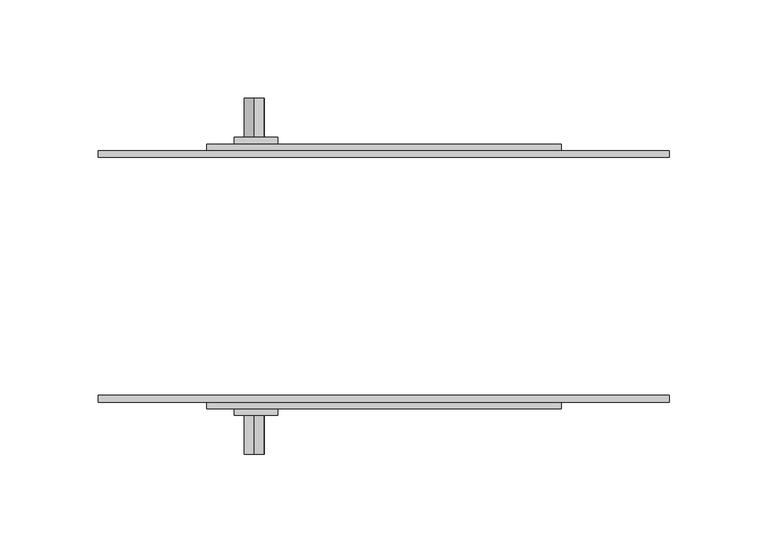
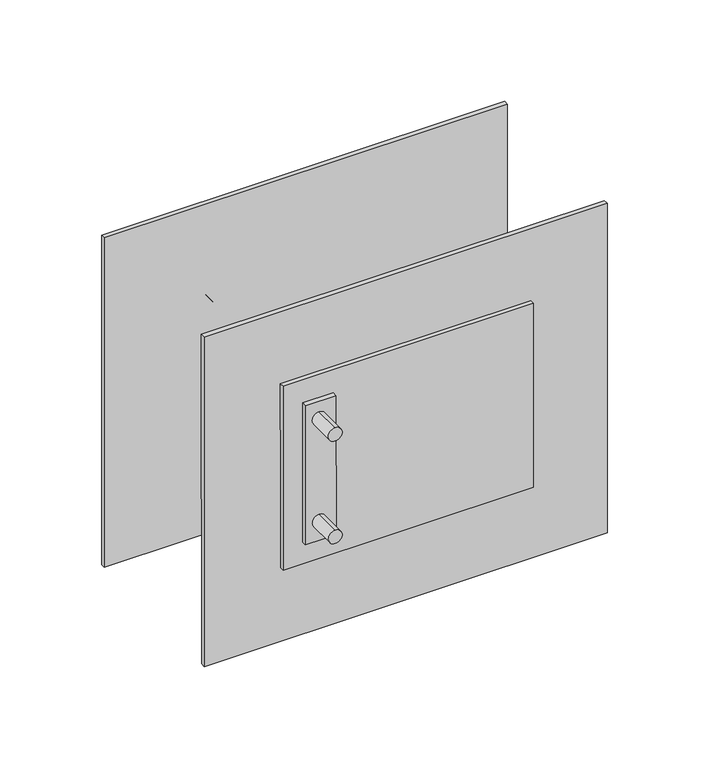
"""IFC4 building model written with IfcOpenShell, lengths in millimetres: proxy geometry, Distribution_Socket_Single_rotated : Distribution_Socket_Single_rotated."""

import ifcopenshell
import ifcopenshell.guid

model = None  # the IFC model being written
_history = None  # IfcOwnerHistory: only IFC2X3 demands one
_inside = {}  # id of a spatial element -> (the spatial element, [elements in it])
_under = {}  # id of a project, library or spatial element -> (it, [spatial elements below it])
_declared = {}  # id of a project -> (the project, [libraries it declares])
_typed = {}  # id of a type object -> (the type object, [elements of that type])
_made_of = {}  # id of a material, layer set ... -> (it, [elements and type objects made of it])


def new_model(schema):
    """Start an empty IFC model of exactly this schema.

    Asked for "IFC4X3", IfcOpenShell would pick the latest addendum, in which some entities
    have other attributes; the version numbers below select the first issue.
    IFC2X3 requires an IfcOwnerHistory on every rooted entity: one is made here for all.
    """
    global model, _history
    if schema == "IFC4X3":
        model = ifcopenshell.file(schema_version=(4, 3, 0, 0))
    else:
        model = ifcopenshell.file(schema=schema)
    _inside.clear()
    _under.clear()
    _declared.clear()
    _typed.clear()
    _made_of.clear()
    _history = None
    if model.schema == "IFC2X3":
        org = make("IfcOrganization", Name="unknown")
        user = make(
            "IfcPersonAndOrganization",
            ThePerson=make("IfcPerson", FamilyName="unknown"),
            TheOrganization=org,
        )
        app = make(
            "IfcApplication",
            ApplicationDeveloper=org,
            Version="unknown",
            ApplicationFullName="unknown",
            ApplicationIdentifier="unknown",
        )
        _history = make(
            "IfcOwnerHistory",
            OwningUser=user,
            OwningApplication=app,
            ChangeAction="ADDED",
            CreationDate=0,
        )
    return model


def make(cls, **values):
    """One entity of the class cls with the attributes given. An attribute that is None is left unset."""
    return model.create_entity(
        cls, **{name: value for name, value in values.items() if value is not None}
    )


def rooted(cls, **values):
    """An entity with a GlobalId (a new one), such as an element, a storey or a relation."""
    return make(cls, GlobalId=ifcopenshell.guid.new(), OwnerHistory=_history, **values)


def si_unit(unit_type, name, prefix=None):
    """IfcSIUnit, for example si_unit("LENGTHUNIT", "METRE", prefix="MILLI")."""
    return make("IfcSIUnit", UnitType=unit_type, Prefix=prefix, Name=name)


def assignment(units):
    """IfcUnitAssignment: the units of a project."""
    return None if units is None else make("IfcUnitAssignment", Units=units)


def point(xyz):
    """IfcCartesianPoint."""
    return None if xyz is None else make("IfcCartesianPoint", Coordinates=xyz)


def direction(xyz):
    """IfcDirection."""
    return None if xyz is None else make("IfcDirection", DirectionRatios=xyz)


def frame(location, z_axis=None, x_axis=None):
    """IfcAxis2Placement3D, a coordinate frame: its origin and axes. An axis left out is left unset."""
    return make(
        "IfcAxis2Placement3D",
        Location=point(location),
        Axis=direction(z_axis),
        RefDirection=direction(x_axis),
    )


def frame_2d(location, x_axis=None):
    """IfcAxis2Placement2D, a coordinate frame in the plane: its origin and x axis."""
    return make(
        "IfcAxis2Placement2D", Location=point(location), RefDirection=direction(x_axis)
    )


def origin():
    """The frame at (0, 0, 0) with its axes left unset."""
    return frame((0.0, 0.0, 0.0))


def place(relative_to, where):
    """IfcLocalPlacement: puts the frame where relative to a parent placement (None: the world)."""
    return make(
        "IfcLocalPlacement", PlacementRelTo=relative_to, RelativePlacement=where
    )


def context(
    kind, dimensions, precision=None, world=None, true_north=None, identifier=None
):
    """IfcGeometricRepresentationContext, for example the 3D "Model" context."""
    return make(
        "IfcGeometricRepresentationContext",
        ContextIdentifier=identifier,
        ContextType=kind,
        CoordinateSpaceDimension=dimensions,
        Precision=precision,
        WorldCoordinateSystem=world,
        TrueNorth=true_north,
    )


def project(units=None, contexts=None):
    """IfcProject with its units and contexts."""
    return rooted(
        "IfcProject",
        Name="project",
        RepresentationContexts=contexts,
        UnitsInContext=assignment(units),
    )


def spatial(cls, under=None, at=None, **own):
    """A site, building, storey or space (cls), placed at a placement, below another one or the project."""
    s = rooted(cls, ObjectPlacement=at, **own)
    if under is not None:
        _under.setdefault(under.id(), (under, []))[1].append(s)
    return s


def polyline(points):
    """IfcPolyline through the points."""
    return make("IfcPolyline", Points=[point(p) for p in points])


def circle_curve(where, radius):
    """IfcCircle in the frame where."""
    return make("IfcCircle", Position=where, Radius=radius)


def trimmed(basis, trim1, trim2, sense, master):
    """IfcTrimmedCurve: the piece of a basis curve between two trims."""
    return make(
        "IfcTrimmedCurve",
        BasisCurve=basis,
        Trim1=trim1,
        Trim2=trim2,
        SenseAgreement=sense,
        MasterRepresentation=master,
    )


def segment(curve, same_sense, transition):
    """IfcCompositeCurveSegment."""
    return make(
        "IfcCompositeCurveSegment",
        Transition=transition,
        SameSense=same_sense,
        ParentCurve=curve,
    )


def composite_curve(segments, self_intersect=None):
    """IfcCompositeCurve: segments joined end to end."""
    return make("IfcCompositeCurve", Segments=segments, SelfIntersect=self_intersect)


def outline(outer, holes=None, kind="AREA"):
    """IfcArbitraryClosedProfileDef: a profile drawn as a closed curve; with holes, ...WithVoids."""
    if holes is None:
        return make("IfcArbitraryClosedProfileDef", ProfileType=kind, OuterCurve=outer)
    return make(
        "IfcArbitraryProfileDefWithVoids",
        ProfileType=kind,
        OuterCurve=outer,
        InnerCurves=holes,
    )


def extrude(swept, where, along, depth):
    """IfcExtrudedAreaSolid: the profile swept, set in the frame where, extruded along a direction by depth."""
    return make(
        "IfcExtrudedAreaSolid",
        SweptArea=swept,
        Position=where,
        ExtrudedDirection=direction(along),
        Depth=depth,
    )


def shape(context_of_items, identifier, shape_type, items):
    """IfcShapeRepresentation: the items that make up one representation, for example the "Body"."""
    return make(
        "IfcShapeRepresentation",
        ContextOfItems=context_of_items,
        RepresentationIdentifier=identifier,
        RepresentationType=shape_type,
        Items=items,
    )


def source(mapping_origin, context_of_items, identifier, shape_type, items):
    """IfcRepresentationMap: a shape defined once, which mapped items show again and again."""
    return make(
        "IfcRepresentationMap",
        MappingOrigin=mapping_origin,
        MappedRepresentation=shape(context_of_items, identifier, shape_type, items),
    )


def transform(
    local_origin,
    x_axis=None,
    y_axis=None,
    z_axis=None,
    scale=None,
    scale2=None,
    scale3=None,
    uniform=True,
):
    """IfcCartesianTransformationOperator3D, or its non-uniform kind. x_axis, y_axis, z_axis: its Axis1, 2, 3."""
    if uniform:
        return make(
            "IfcCartesianTransformationOperator3D",
            Axis1=direction(x_axis),
            Axis2=direction(y_axis),
            LocalOrigin=point(local_origin),
            Scale=scale,
            Axis3=direction(z_axis),
        )
    return make(
        "IfcCartesianTransformationOperator3DnonUniform",
        Axis1=direction(x_axis),
        Axis2=direction(y_axis),
        LocalOrigin=point(local_origin),
        Scale=scale,
        Axis3=direction(z_axis),
        Scale2=scale2,
        Scale3=scale3,
    )


def mapped(mapping_source, mapping_target):
    """IfcMappedItem: shows the shape of a source again, moved by a transform."""
    return make(
        "IfcMappedItem", MappingSource=mapping_source, MappingTarget=mapping_target
    )


def made_of(thing, what):
    """Note that an element or type object is made of a material, layer set ...; save() writes the relation."""
    if what is not None:
        _made_of.setdefault(what.id(), (what, []))[1].append(thing)
    return thing


def element(
    cls,
    number,
    at=None,
    inside=None,
    cuts=None,
    type_object=None,
    material=None,
    context=None,
    identifier="Body",
    shape_type=None,
    held_by="IfcProductDefinitionShape",
    body=None,
    shapes=None,
    **own,
):
    """One element of the class cls, such as IfcWall. Its Tag is "e" and its number.

    at: its placement. inside: the storey or other place that contains it. cuts: it is an
    opening in that element (IfcRelVoidsElement). A single representation is given by context,
    identifier, shape_type and body (its items); several are given by shapes. held_by: the class
    of the entity that holds the representations. save() writes the other relations.
    """
    e = rooted(cls, Tag="e%d" % number, ObjectPlacement=at, **own)
    if body is not None:
        shapes = [shape(context, identifier, shape_type, body)]
    if shapes is not None:
        e.Representation = make(held_by, Representations=shapes)
    if inside is not None:
        _inside.setdefault(inside.id(), (inside, []))[1].append(e)
    if cuts is not None:
        rooted(
            "IfcRelVoidsElement", RelatingBuildingElement=cuts, RelatedOpeningElement=e
        )
    if type_object is not None:
        _typed.setdefault(type_object.id(), (type_object, []))[1].append(e)
    return made_of(e, material)


def aggregate(whole, parts):
    """IfcRelAggregates: a whole, such as a stair, and the parts it consists of."""
    return rooted("IfcRelAggregates", RelatingObject=whole, RelatedObjects=parts)


def save(model, path):
    """Write the relations noted so far, then the file.

    IfcRelAggregates (storeys below a building ...), IfcRelContainedInSpatialStructure (elements
    in a storey), IfcRelDefinesByType, IfcRelAssociatesMaterial and IfcRelDeclares: one each for
    every whole, place, type object, material and project.
    """
    for whole, parts in _under.values():
        aggregate(whole, parts)
    for where, things in _inside.values():
        rooted(
            "IfcRelContainedInSpatialStructure",
            RelatedElements=things,
            RelatingStructure=where,
        )
    for kind, things in _typed.values():
        rooted("IfcRelDefinesByType", RelatedObjects=things, RelatingType=kind)
    for what, things in _made_of.values():
        rooted("IfcRelAssociatesMaterial", RelatedObjects=things, RelatingMaterial=what)
    for by, libraries in _declared.values():
        rooted("IfcRelDeclares", RelatingContext=by, RelatedDefinitions=libraries)
    model.write(path)


def electrical_equipment_a33bc82e(model_context):
    return source(origin(), model_context, "Body", "SweptSolid", [
        extrude(outline(composite_curve([segment(trimmed(circle_curve(frame_2d((-38.3495044, -65.9108106)), 5.0), [point((-43.349503, -65.9071337))], [point((-33.3495057, -65.9144874))], False, "CARTESIAN"), True, "CONTINUOUS"), segment(trimmed(circle_curve(frame_2d((-38.3495044, -65.9108106)), 5.0), [point((-33.3495057, -65.9144874))], [point((-43.349503, -65.9071337))], False, "CARTESIAN"), True, "CONTINUOUS")], self_intersect=False)), frame((0.0, 69.5, 0.0), z_axis=(0.0, 1.0, 0.0), x_axis=(0.0, 0.0, 1.0)), (0.0, 0.0, 1.0), 20.9),
        extrude(outline(composite_curve([segment(trimmed(circle_curve(frame_2d((39.6461612, -65.9681666)), 5.0), [point((34.6461626, -65.9644897))], [point((44.6461599, -65.9718434))], False, "CARTESIAN"), True, "CONTINUOUS"), segment(trimmed(circle_curve(frame_2d((39.6461612, -65.9681666)), 5.0), [point((44.6461599, -65.9718434))], [point((34.6461626, -65.9644897))], False, "CARTESIAN"), True, "CONTINUOUS")], self_intersect=False)), frame((0.0, 69.5, 0.0), z_axis=(0.0, 1.0, 0.0), x_axis=(0.0, 0.0, 1.0)), (0.0, 0.0, 1.0), 20.9),
        extrude(outline(composite_curve([segment(trimmed(circle_curve(frame_2d((-38.3495044, -65.9108106)), 5.0), [point((-43.349503, -65.9071337))], [point((-33.3495057, -65.9144874))], False, "CARTESIAN"), True, "CONTINUOUS"), segment(trimmed(circle_curve(frame_2d((-38.3495044, -65.9108106)), 5.0), [point((-33.3495057, -65.9144874))], [point((-43.349503, -65.9071337))], False, "CARTESIAN"), True, "CONTINUOUS")], self_intersect=False)), frame((0.0, -90.4, 0.0), z_axis=(0.0, 1.0, 0.0), x_axis=(0.0, 0.0, 1.0)), (0.0, 0.0, 1.0), 20.9),
        extrude(outline(composite_curve([segment(trimmed(circle_curve(frame_2d((39.6461612, -65.9681666)), 5.0), [point((34.6461626, -65.9644897))], [point((44.6461599, -65.9718434))], False, "CARTESIAN"), True, "CONTINUOUS"), segment(trimmed(circle_curve(frame_2d((39.6461612, -65.9681666)), 5.0), [point((44.6461599, -65.9718434))], [point((34.6461626, -65.9644897))], False, "CARTESIAN"), True, "CONTINUOUS")], self_intersect=False)), frame((0.0, -90.4, 0.0), z_axis=(0.0, 1.0, 0.0), x_axis=(0.0, 0.0, 1.0)), (0.0, 0.0, 1.0), 20.9),
        extrude(outline(polyline([(0.0, -3.3705022), (0.0, 0.0), (21.9999999, 0.0), (21.9999999, -3.3705022), (0.0, -3.3705022)])), frame((-75.9610046, 70.6115, -53.0559094), z_axis=(-0.0007353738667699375, 0.0, 0.9999997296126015), x_axis=(0.9999997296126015, 0.0, 0.0007353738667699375)), (0.0, 0.0, 1.0), 106.0000706),
        extrude(outline(polyline([(0.0, -3.3705022), (0.0, 0.0), (21.9999999, 0.0), (21.9999999, -3.3705022), (0.0, -3.3705022)])), frame((-75.9610046, -67.2409978, -53.0559094), z_axis=(-0.0007353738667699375, 0.0, 0.9999997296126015), x_axis=(0.9999997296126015, 0.0, 0.0007353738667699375)), (0.0, 0.0, 1.0), 106.0000706),
        extrude(outline(polyline([(0.0, -3.3704978), (0.0, 0.0), (180.0, 0.0), (180.0, -3.3704978), (0.0, -3.3704978)])), frame((-89.9489553, 67.2409978, -69.446305), z_axis=(-0.0007353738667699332, 0.0, 0.9999997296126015), x_axis=(0.9999997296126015, 0.0, 0.0007353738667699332)), (0.0, 0.0, 1.0), 140.0000301),
        extrude(outline(polyline([(0.0, -3.3704974), (0.0, 0.0), (180.0, 0.0), (180.0, -3.3704974), (0.0, -3.3704974)])), frame((-89.9489553, -63.8705004, -69.446305), z_axis=(-0.0007353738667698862, 0.0, 0.9999997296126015), x_axis=(0.9999997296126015, 0.0, 0.0007353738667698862)), (0.0, 0.0, 1.0), 140.0000301),
        extrude(outline(polyline([(0.0, -3.3705), (0.0, 0.0), (290.0, 0.0), (290.0, -3.3705), (0.0, -3.3705)])), frame((-144.9077651, 63.8705, -125.4791926), z_axis=(-0.0007353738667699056, 0.0, 0.9999997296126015), x_axis=(0.9999997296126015, 0.0, 0.0007353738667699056)), (0.0, 0.0, 1.0), 250.7451946),
        extrude(outline(polyline([(0.0, -3.3705004), (0.0, 0.0), (290.0, 0.0), (290.0, -3.3705004), (0.0, -3.3705004)])), frame((-144.9077651, -60.5, -125.4791926), z_axis=(-0.0007353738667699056, 0.0, 0.9999997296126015), x_axis=(0.9999997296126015, 0.0, 0.0007353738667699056)), (0.0, 0.0, 1.0), 250.7451946),
    ])


if __name__ == "__main__":
    model = new_model("IFC4")
    model_context = context("Model", 3, world=origin())
    ifc_project = project(units=[si_unit("LENGTHUNIT", "METRE", prefix="MILLI")], contexts=[model_context])
    site = spatial("IfcSite", under=ifc_project)
    building = spatial("IfcBuilding", under=site)
    placement = place(None, origin())
    electrical_equipment_shape = electrical_equipment_a33bc82e(model_context)
    element("IfcBuildingElementProxy", 1, Name="Distribution_Socket_Single_rotated : Distribution_Socket_Single_rotated", ObjectType="Distribution_Socket_Single_rotated : Distribution_Socket_Single_rotated", at=placement, inside=building, context=model_context, shape_type="MappedRepresentation", body=[
        mapped(electrical_equipment_shape, transform((0.0, 0.0, 0.0), x_axis=(1.0, 0.0, 0.0), y_axis=(0.0, 1.0, 0.0), z_axis=(0.0, 0.0, 1.0))),
    ])
    save(model, "model.ifc")
